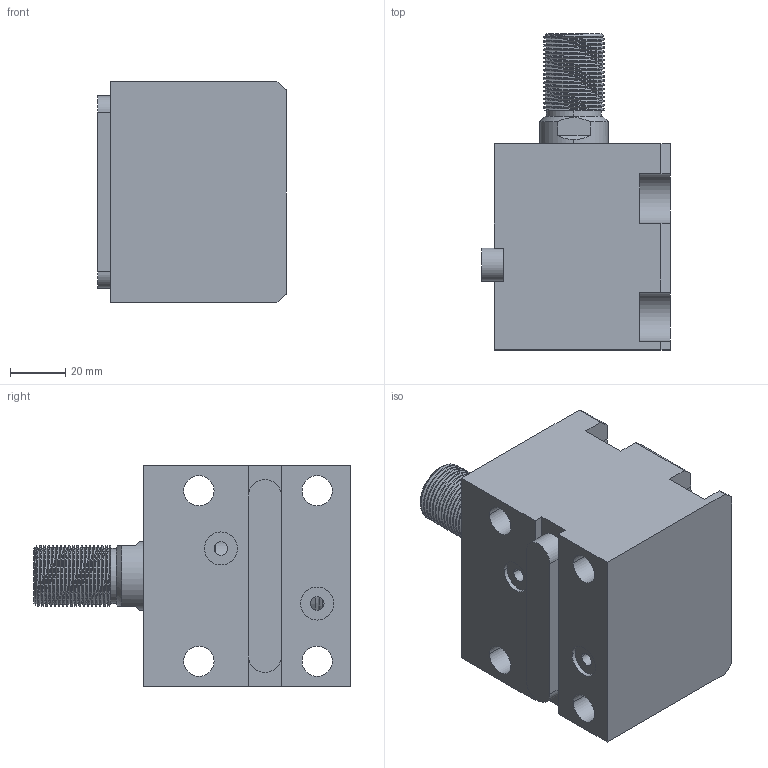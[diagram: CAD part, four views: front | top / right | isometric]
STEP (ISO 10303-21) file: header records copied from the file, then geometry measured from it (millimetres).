
FILE_DESCRIPTION (( 'STEP AP214' ), '1' );
FILE_NAME ('chtb-lam40x20w_asm.STEP', '2018-05-30T06:27:48', ( 'Windows' ), ( 'Microsoft' ), 'SwSTEP 2.0', 'SolidWorks 2015', '' );
FILE_SCHEMA (( 'AUTOMOTIVE_DESIGN' ));
Length unit declared in the file: millimetre
Products named in the file (5): CHTB-SD40X20WHSG; CHTB-SD40QG; CHTB-LAM40X20NBT; CHTB-LA40PJ; chtb-lam40x20w_asm
Assembly tree (4 placements, depth 2):
  chtb-lam40x20w_asm
    CHTB-LA40PJ
    CHTB-LAM40X20NBT
    CHTB-SD40QG
    CHTB-SD40X20WHSG
Bounding box: 68.5 x 115 x 80 mm (x, y, z)
Volume: 350145 mm3; surface area: 75855.8 mm2
Topology: 4 solids, 5 shells, 199 faces, 547 edges, 365 vertices
Faces by surface type: cylinder 111, plane 50, bspline 16, torus 12, cone 10
Entity records: 13609 total; most frequent: CARTESIAN_POINT 8674, ORIENTED_EDGE 1082, DIRECTION 894, EDGE_CURVE 541, VERTEX_POINT 365, AXIS2_PLACEMENT_3D 349, EDGE_LOOP 226, FACE_OUTER_BOUND 199
